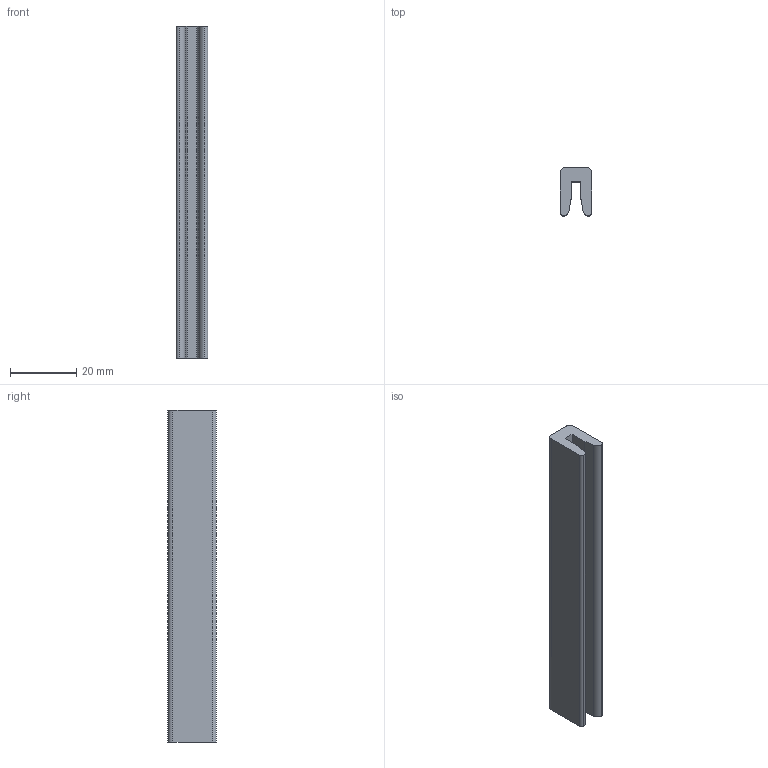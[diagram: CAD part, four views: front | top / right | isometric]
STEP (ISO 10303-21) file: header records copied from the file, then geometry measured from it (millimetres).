
FILE_DESCRIPTION (( 'STEP AP214' ), '1' );
FILE_NAME ('P10473.STEP', '2024-01-24T08:24:55', ( '' ), ( '' ), 'SwSTEP 2.0', 'SolidWorks 2022', '' );
FILE_SCHEMA (( 'AUTOMOTIVE_DESIGN' ));
Length unit declared in the file: millimetre
Products named in the file (1): P10473
Bounding box: 9.5 x 14.5 x 100 mm (x, y, z)
Volume: 10022 mm3; surface area: 6545.6 mm2
Topology: 1 solids, 1 shells, 20 faces, 54 edges, 36 vertices
Faces by surface type: plane 10, cylinder 10
Entity records: 672 total; most frequent: DIRECTION 116, CARTESIAN_POINT 111, ORIENTED_EDGE 108, EDGE_CURVE 54, AXIS2_PLACEMENT_3D 41, VERTEX_POINT 36, VECTOR 34, LINE 34
